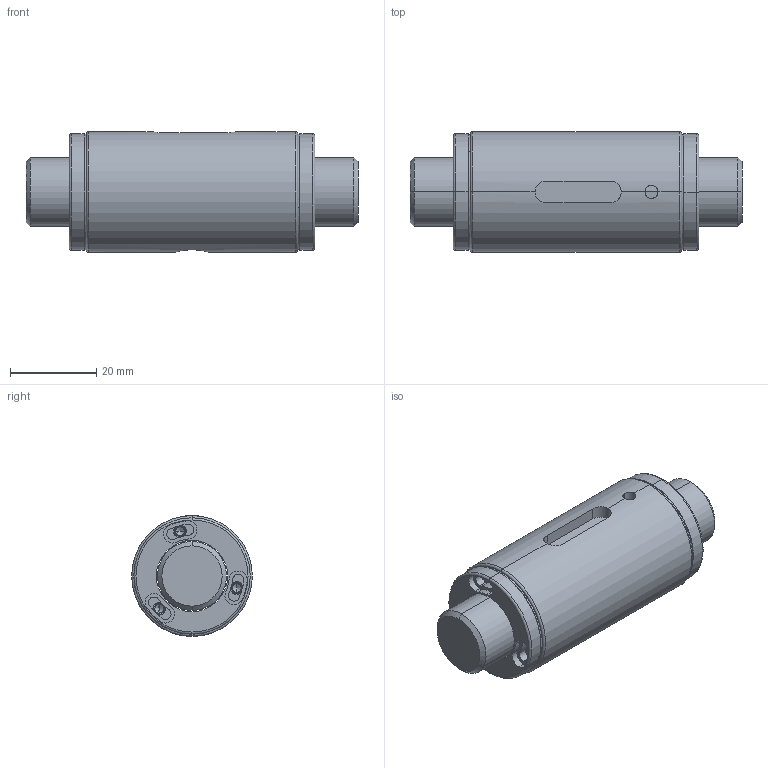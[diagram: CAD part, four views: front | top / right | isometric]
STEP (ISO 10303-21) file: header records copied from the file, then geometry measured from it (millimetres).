
FILE_DESCRIPTION (( 'STEP AP203' ), '1' );
FILE_NAME ('SCHR01620A1-C.STEP', '2020-06-17T08:46:34', ( '' ), ( '' ), 'SwSTEP 2.0', 'SolidWorks 2013', '' );
FILE_SCHEMA (( 'CONFIG_CONTROL_DESIGN' ));
Length unit declared in the file: millimetre
Products named in the file (1): SCHR01620A1-C
Bounding box: 77 x 28 x 28 mm (x, y, z)
Volume: 36936.9 mm3; surface area: 13752.3 mm2
Topology: 2 solids, 2 shells, 188 faces, 456 edges, 280 vertices
Faces by surface type: cylinder 104, plane 48, cone 28, torus 8
Entity records: 5785 total; most frequent: CARTESIAN_POINT 1137, DIRECTION 1092, ORIENTED_EDGE 888, AXIS2_PLACEMENT_3D 475, EDGE_CURVE 444, CIRCLE 286, VERTEX_POINT 280, EDGE_LOOP 212
